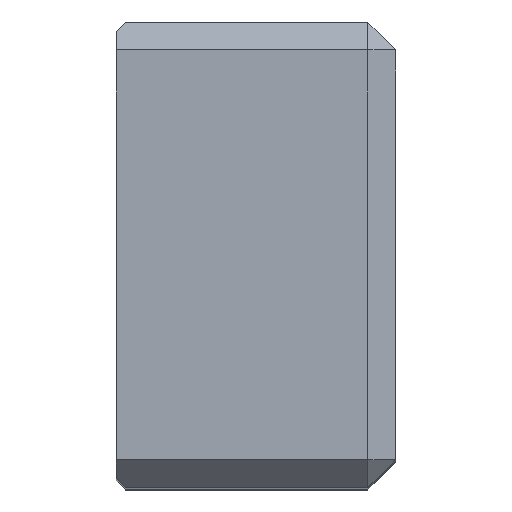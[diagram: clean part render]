
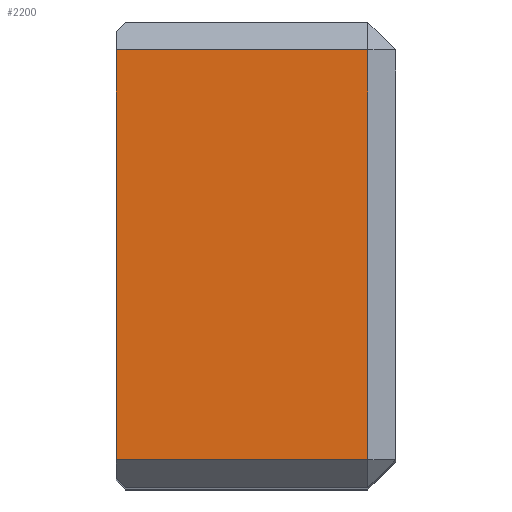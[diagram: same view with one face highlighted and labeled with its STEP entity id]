
A CAD part, top view. The second image highlights one B-rep face of the part: STEP entity #2200.
In plain terms, the highlighted planar face has unit normal (0, 0, 1).
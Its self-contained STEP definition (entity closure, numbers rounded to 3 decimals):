
#255=VERTEX_POINT(' ',#256);
#256=CARTESIAN_POINT('',(-3.,-22.,0.));
#257=VERTEX_POINT(' ',#258);
#258=CARTESIAN_POINT('',(-3.,22.,0.));
#259=VERTEX_POINT(' ',#260);
#260=CARTESIAN_POINT('',(-30.,22.,0.));
#261=VERTEX_POINT(' ',#262);
#262=CARTESIAN_POINT('',(-30.,-22.,0.));
#1055=LINE('',#1056,#1057);
#1056=CARTESIAN_POINT('',(-3.,38.971,0.));
#1057=VECTOR('',#1058,1.);
#1058=DIRECTION('',(0.,-1.,0.));
#1059=EDGE_CURVE(' ',#257,#255,#1055,.T.);
#1060=LINE('',#1061,#1062);
#1061=CARTESIAN_POINT('',(-46.971,22.,0.));
#1062=VECTOR('',#1063,1.);
#1063=DIRECTION('',(1.,0.,0.));
#1064=EDGE_CURVE(' ',#259,#257,#1060,.T.);
#1065=LINE('',#1066,#1067);
#1066=CARTESIAN_POINT('',(-30.,25.12,0.));
#1067=VECTOR('',#1068,1.);
#1068=DIRECTION('',(0.,-1.,0.));
#1069=EDGE_CURVE(' ',#259,#261,#1065,.T.);
#1070=LINE('',#1071,#1072);
#1071=CARTESIAN_POINT('',(13.971,-22.,0.));
#1072=VECTOR('',#1073,1.);
#1073=DIRECTION('',(-1.,0.,0.));
#1074=EDGE_CURVE(' ',#255,#261,#1070,.T.);
#2189=ORIENTED_EDGE('',*,*,#1059,.F.);
#2190=ORIENTED_EDGE('',*,*,#1064,.F.);
#2191=ORIENTED_EDGE('',*,*,#1069,.T.);
#2192=ORIENTED_EDGE('',*,*,#1074,.F.);
#2193=EDGE_LOOP('',(#2189,#2190,#2191,#2192));
#2194=FACE_OUTER_BOUND('',#2193,.T.);
#2195=PLANE('',#2196);
#2196=AXIS2_PLACEMENT_3D('',#2197,#2198,#2199);
#2197=CARTESIAN_POINT('',(0.,25.,0.));
#2198=DIRECTION('',(0.,0.,1.));
#2199=DIRECTION('',(0.,-1.,0.));
#2200=ADVANCED_FACE('',(#2194),#2195,.T.);
